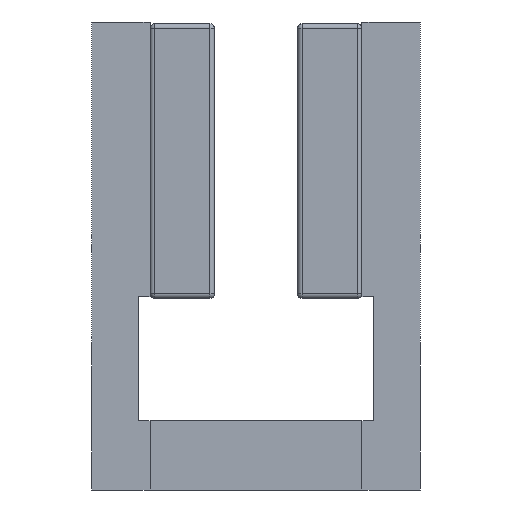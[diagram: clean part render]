
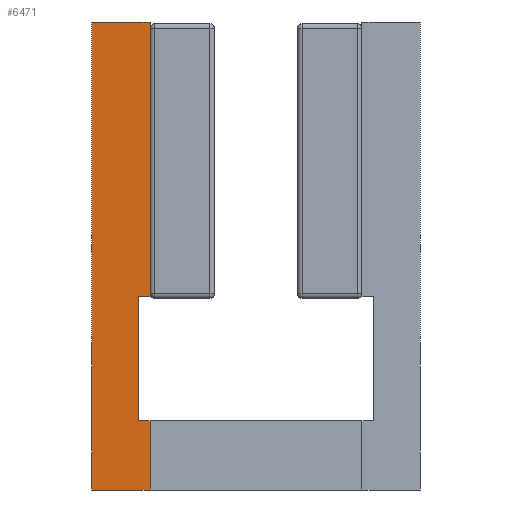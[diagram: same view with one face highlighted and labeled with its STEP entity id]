
A CAD part, front view. The second image highlights one B-rep face of the part: STEP entity #6471.
In plain terms, the highlighted planar face has unit normal (0, -1, 0).
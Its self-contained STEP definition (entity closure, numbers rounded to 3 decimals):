
#211 = LINE ( 'NONE', #12587, #16094 ) ;
#383 = ORIENTED_EDGE ( 'NONE', *, *, #5828, .F. ) ;
#388 = DIRECTION ( 'NONE',  ( 0., 0., -1. ) ) ;
#427 = CARTESIAN_POINT ( 'NONE',  ( -11.052, -141.89, 11.223 ) ) ;
#862 = DIRECTION ( 'NONE',  ( 0., 0., 1. ) ) ;
#930 = EDGE_CURVE ( 'Defeatured_0_3+Defeatured_0_5+Defeatured_0_2+Defeatured_0_46', #9528, #18993, #211, .T. ) ;
#1021 = CARTESIAN_POINT ( 'NONE',  ( -4.702, -141.89, 62.023 ) ) ;
#1372 = DIRECTION ( 'NONE',  ( 1., 0., 0. ) ) ;
#1672 = EDGE_CURVE ( 'Defeatured_0_2+Defeatured_0_5+Defeatured_0_1+Defeatured_0_3', #9098, #9528, #15289, .T. ) ;
#1774 = ORIENTED_EDGE ( 'NONE', *, *, #6051, .T. ) ;
#2045 = DIRECTION ( 'NONE',  ( 0., 0., 1. ) ) ;
#2310 = LINE ( 'NONE', #8410, #12253 ) ;
#2347 = CARTESIAN_POINT ( 'NONE',  ( -4.702, -141.89, 11.223 ) ) ;
#3415 = CARTESIAN_POINT ( 'NONE',  ( -11.052, -141.89, 62.023 ) ) ;
#3631 = CARTESIAN_POINT ( 'NONE',  ( -4.702, -141.89, 32.223 ) ) ;
#3696 = CARTESIAN_POINT ( 'NONE',  ( -6.002, -141.89, 18.723 ) ) ;
#3747 = VECTOR ( 'NONE', #2045, 1000. ) ;
#3914 = ORIENTED_EDGE ( 'NONE', *, *, #9232, .T. ) ;
#4365 = LINE ( 'NONE', #8769, #19561 ) ;
#4505 = EDGE_CURVE ( 'Defeatured_0_5+Defeatured_0_8+Defeatured_0_6+Defeatured_0_7', #12588, #6711, #6572, .T. ) ;
#4882 = DIRECTION ( 'NONE',  ( 1., 0., 0. ) ) ;
#5571 = EDGE_LOOP ( 'NONE', ( #11219, #17847, #383, #13841, #3914, #5777, #1774, #17095 ) ) ;
#5716 = CARTESIAN_POINT ( 'NONE',  ( -4.702, -141.89, 11.223 ) ) ;
#5777 = ORIENTED_EDGE ( 'NONE', *, *, #4505, .T. ) ;
#5828 = EDGE_CURVE ( 'Defeatured_0_1+Defeatured_0_5+Defeatured_0_0+Defeatured_0_2', #8588, #9098, #2310, .T. ) ;
#6051 = EDGE_CURVE ( 'Defeatured_0_5+Defeatured_0_7+Defeatured_0_8+Defeatured_0_43', #6711, #17401, #10775, .T. ) ;
#6471 = ADVANCED_FACE ( 'Defeatured_0_5', ( #8566 ), #14724, .T. ) ;
#6572 = LINE ( 'NONE', #3415, #6655 ) ;
#6655 = VECTOR ( 'NONE', #388, 1000. ) ;
#6711 = VERTEX_POINT ( 'NONE', #427 ) ;
#6878 = DIRECTION ( 'NONE',  ( -1., 0., 0. ) ) ;
#7606 = AXIS2_PLACEMENT_3D ( 'NONE', #5716, #16449, #862 ) ;
#7984 = CARTESIAN_POINT ( 'NONE',  ( -6.002, -141.89, 18.723 ) ) ;
#8127 = CARTESIAN_POINT ( 'NONE',  ( -6.002, -141.89, 32.223 ) ) ;
#8410 = CARTESIAN_POINT ( 'NONE',  ( -4.702, -141.89, 32.223 ) ) ;
#8432 = VECTOR ( 'NONE', #8625, 1000. ) ;
#8566 = FACE_OUTER_BOUND ( 'NONE', #5571, .T. ) ;
#8588 = VERTEX_POINT ( 'NONE', #3631 ) ;
#8625 = DIRECTION ( 'NONE',  ( -1., 0., 0. ) ) ;
#8769 = CARTESIAN_POINT ( 'NONE',  ( -4.702, -141.89, 11.223 ) ) ;
#9098 = VERTEX_POINT ( 'NONE', #8127 ) ;
#9232 = EDGE_CURVE ( 'Defeatured_0_5+Defeatured_0_6+Defeatured_0_0+Defeatured_0_8', #15098, #12588, #11660, .T. ) ;
#9528 = VERTEX_POINT ( 'NONE', #3696 ) ;
#9655 = CARTESIAN_POINT ( 'NONE',  ( -11.052, -141.89, 62.023 ) ) ;
#10775 = LINE ( 'NONE', #12511, #14391 ) ;
#11084 = CARTESIAN_POINT ( 'NONE',  ( -4.702, -141.89, 62.023 ) ) ;
#11219 = ORIENTED_EDGE ( 'NONE', *, *, #930, .F. ) ;
#11273 = EDGE_CURVE ( 'Defeatured_0_5+Defeatured_0_0+Defeatured_0_1+Defeatured_0_6', #8588, #15098, #4365, .T. ) ;
#11511 = EDGE_CURVE ( 'Defeatured_0_5+Defeatured_0_43+Defeatured_0_7+Defeatured_0_3', #17401, #18993, #19144, .T. ) ;
#11660 = LINE ( 'NONE', #1021, #8432 ) ;
#12253 = VECTOR ( 'NONE', #6878, 1000. ) ;
#12511 = CARTESIAN_POINT ( 'NONE',  ( -11.052, -141.89, 11.223 ) ) ;
#12587 = CARTESIAN_POINT ( 'NONE',  ( -4.702, -141.89, 18.723 ) ) ;
#12588 = VERTEX_POINT ( 'NONE', #9655 ) ;
#13841 = ORIENTED_EDGE ( 'NONE', *, *, #11273, .T. ) ;
#14262 = DIRECTION ( 'NONE',  ( 0., 0., -1. ) ) ;
#14391 = VECTOR ( 'NONE', #1372, 1000. ) ;
#14724 = PLANE ( 'NONE',  #7606 ) ;
#15098 = VERTEX_POINT ( 'NONE', #11084 ) ;
#15214 = DIRECTION ( 'NONE',  ( 0., 0., 1. ) ) ;
#15289 = LINE ( 'NONE', #7984, #15789 ) ;
#15676 = CARTESIAN_POINT ( 'NONE',  ( -4.702, -141.89, 18.723 ) ) ;
#15789 = VECTOR ( 'NONE', #14262, 1000. ) ;
#16094 = VECTOR ( 'NONE', #4882, 1000. ) ;
#16449 = DIRECTION ( 'NONE',  ( 0., -1., 0. ) ) ;
#17095 = ORIENTED_EDGE ( 'NONE', *, *, #11511, .T. ) ;
#17281 = CARTESIAN_POINT ( 'NONE',  ( -4.702, -141.89, 11.223 ) ) ;
#17401 = VERTEX_POINT ( 'NONE', #17281 ) ;
#17847 = ORIENTED_EDGE ( 'NONE', *, *, #1672, .F. ) ;
#18993 = VERTEX_POINT ( 'NONE', #15676 ) ;
#19144 = LINE ( 'NONE', #2347, #3747 ) ;
#19561 = VECTOR ( 'NONE', #15214, 1000. ) ;
